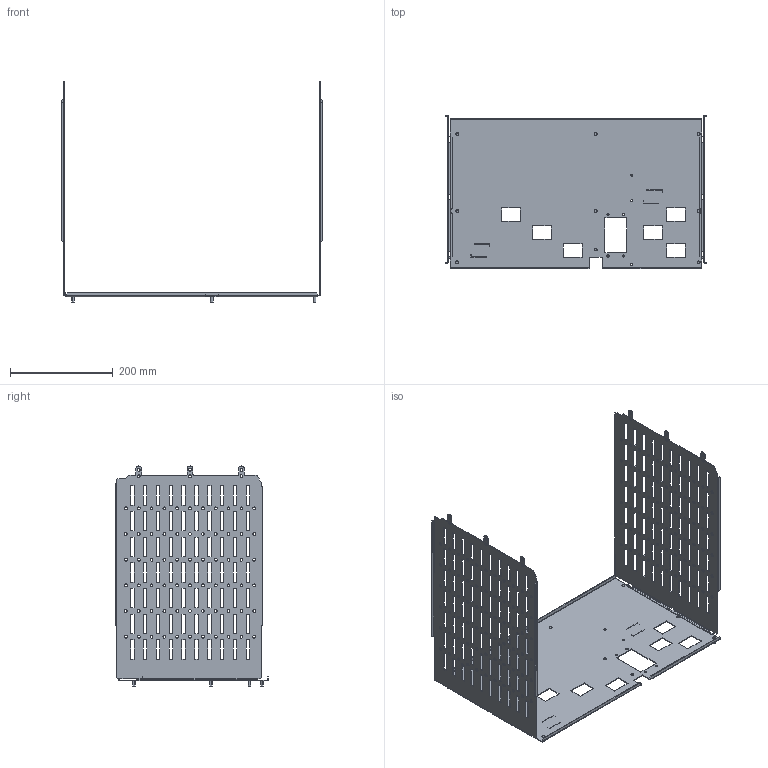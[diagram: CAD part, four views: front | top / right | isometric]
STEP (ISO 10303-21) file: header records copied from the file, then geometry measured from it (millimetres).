
FILE_DESCRIPTION(('CAx-IF Rec.Pracs.---Model Styling and Organization---1.2---2011-12-15','CAx-IF Rec.Pracs.---Geometric and Assembly Validation Properties---4.1---2014-06-16','CAx-IF Rec.Pracs.---PMI Polyline Presentation---2.0---2013-05-24'),'2;1');
FILE_NAME('R5M2W6M1A22.stp','2021-05-05T12:29:48+03:00',(''),(''),'STEP Interface 4.4 by CT CoreTechnologie','3D_Evolution4.4 by CT CoreTechnologie','');
FILE_SCHEMA(('AUTOMOTIVE_DESIGN { 1 0 10303 214 1 1 1 1 }'));
Length unit declared in the file: millimetre
Products named in the file (5): R5M2W6M1A22; M5x8-DIN7500C_stright; RB.1285.00.00.0_-12; RB.1285.00.00.0_-13; RB.1257.00.00.0_-11
Assembly tree (12 placements, depth 2):
  R5M2W6M1A22
    M5x8-DIN7500C_stright  x9
    RB.1285.00.00.0_-12
    RB.1285.00.00.0_-13
    RB.1257.00.00.0_-11
Bounding box: 510 x 297.5 x 428.6 mm (x, y, z)
Surface area: 694314.9 mm2 (no closed solid volume)
Topology: 0 solids, 13 shells, 1185 faces, 3505 edges, 2334 vertices
Faces by surface type: plane 789, cylinder 396
Entity records: 40423 total; most frequent: CARTESIAN_POINT 6925, ORIENTED_EDGE 6914, DIRECTION 6551, EDGE_CURVE 3457, VECTOR 2695, LINE 2695, VERTEX_POINT 2302, AXIS2_PLACEMENT_3D 1928
